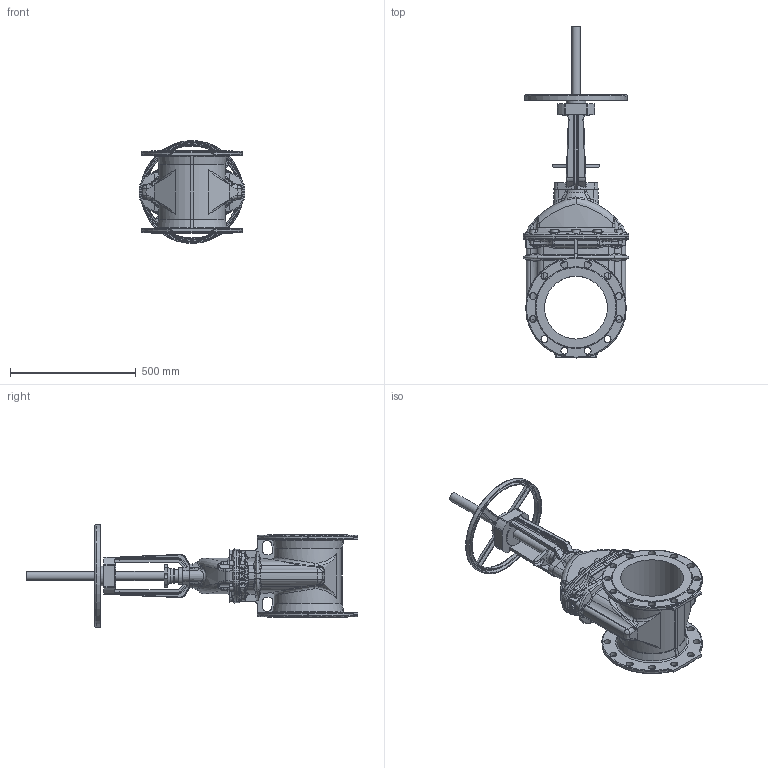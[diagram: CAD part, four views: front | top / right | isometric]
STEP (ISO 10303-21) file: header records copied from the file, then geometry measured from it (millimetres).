
FILE_DESCRIPTION (( 'STEP AP203' ), '1' );
FILE_NAME ('O_21_34_DN250_41XXXXX open_AA0.step', '2020-02-12T09:29:38', ( 'Windows User' ), ( 'AVK' ), 'SwSTEP 2.0', 'SolidWorks 2012', '' );
FILE_SCHEMA (( 'CONFIG_CONTROL_DESIGN' ));
Length unit declared in the file: millimetre
Products named in the file (1): O_21_34_DN250_41XXXXX open_AA0
Bounding box: 421.93 x 1321.5 x 409.98 mm (x, y, z)
Volume: 25044153.1 mm3; surface area: 1740440.9 mm2
Topology: 1 solids, 1 shells, 1053 faces, 2698 edges, 1657 vertices
Faces by surface type: bspline 348, plane 268, cylinder 195, cone 146, torus 94, sphere 2
Full cylindrical faces by diameter (mm): 28 x24, 36 x2, 51.9 x1, 58 x1, 64 x1, 77 x1, 105 x2, 250 x1
Entity records: 47114 total; most frequent: CARTESIAN_POINT 25017, ORIENTED_EDGE 5212, DIRECTION 3791, EDGE_CURVE 2606, VERTEX_POINT 1621, AXIS2_PLACEMENT_3D 1519, EDGE_LOOP 1185, FACE_OUTER_BOUND 1094
